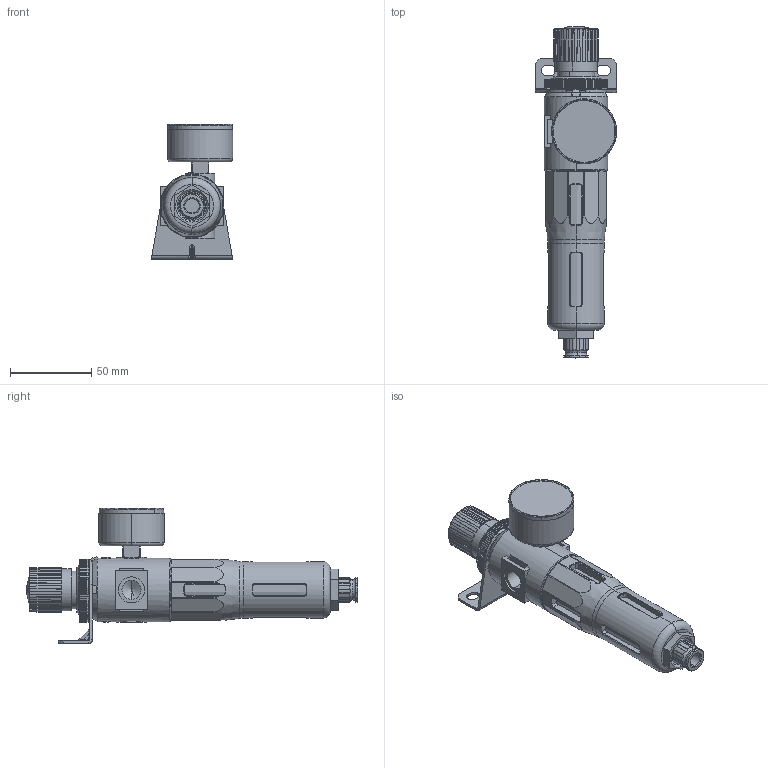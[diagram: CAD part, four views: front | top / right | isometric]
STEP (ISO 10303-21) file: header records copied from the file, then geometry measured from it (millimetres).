
FILE_DESCRIPTION (( 'STEP AP214' ), '1' );
FILE_NAME ('TM000041 TM line FR da G1-4.STEP', '2019-10-01T15:03:51', ( '' ), ( '' ), 'SwSTEP 2.0', 'SolidWorks 2018', '' );
FILE_SCHEMA (( 'AUTOMOTIVE_DESIGN' ));
Length unit declared in the file: millimetre
Products named in the file (15): staffa a L x serie TM G1-4; TM000041 TM line FR da G1-4; MANOMETRO D 40.iam; vetro ø40; MANOMETRO KPM 40 .ipt; TM000021-ghiera G1-4; 648415_LF_Valor predeterminado; TM000021-corpo G1-4; TM000021-pomello G1-4 black; TM000021-cupola G1-4; tazza plastica M36; Tazza metallica x serie TM line; TAZZA Metallica Festo style x G1-4_Valor predeterminado; TM000021-filtro sinter G1-4; MANOMETRO D 40
Assembly tree (14 placements, depth 4):
  TM000041 TM line FR da G1-4
    TM000021-corpo G1-4
    TM000021-cupola G1-4
    TM000021-pomello G1-4 black
    TM000021-ghiera G1-4
    TM000021-filtro sinter G1-4
    Tazza metallica x serie TM line
      TAZZA Metallica Festo style x G1-4_Valor predeterminado
      648415_LF_Valor predeterminado
      tazza plastica M36
    MANOMETRO D 40
      MANOMETRO D 40.iam
        MANOMETRO KPM 40 .ipt
      vetro ø40
    staffa a L x serie TM G1-4
Bounding box: 50.2 x 204.04 x 83 mm (x, y, z)
Volume: 113760.2 mm3; surface area: 96861.9 mm2
Topology: 17 solids, 17 shells, 1928 faces, 5235 edges, 3412 vertices
Faces by surface type: plane 848, bspline 464, cylinder 445, cone 108, torus 61, sphere 2
Entity records: 76604 total; most frequent: CARTESIAN_POINT 25324, ORIENTED_EDGE 10446, DIRECTION 7742, EDGE_CURVE 5223, VERTEX_POINT 3412, AXIS2_PLACEMENT_3D 2617, VECTOR 2508, LINE 2508
